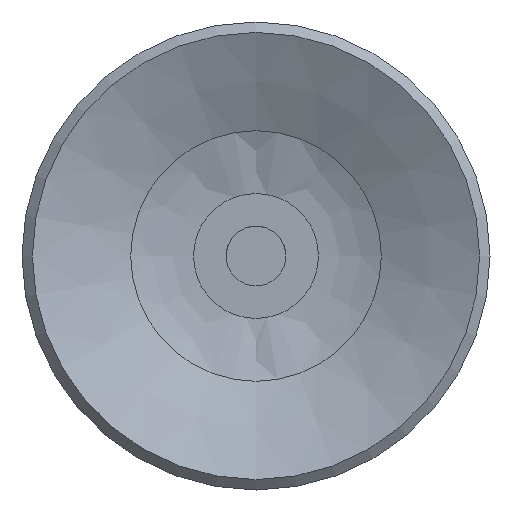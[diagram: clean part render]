
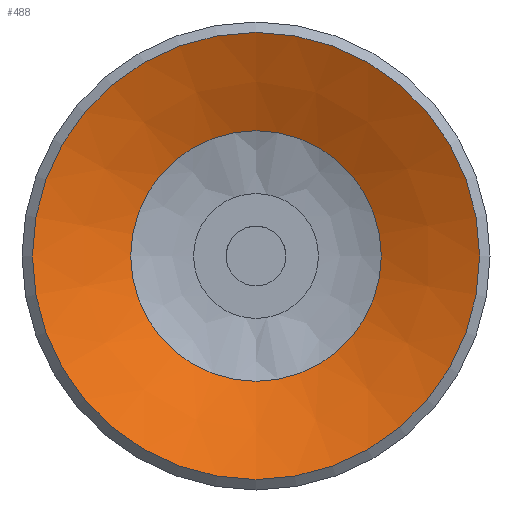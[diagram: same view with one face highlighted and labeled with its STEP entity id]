
A CAD part, front view. The second image highlights one B-rep face of the part: STEP entity #488.
In plain terms, the highlighted conical face has half-angle 65.056 degrees and reference radius 3.2 mm.
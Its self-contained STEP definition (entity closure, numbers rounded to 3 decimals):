
#488=ADVANCED_FACE('',(#728,#729),#730,.F.);
#728=FACE_BOUND('',#997,.T.);
#729=FACE_OUTER_BOUND('',#998,.T.);
#730=CONICAL_SURFACE('',#999,3.2,1.135);
#997=EDGE_LOOP('',(#1673));
#998=EDGE_LOOP('',(#1674));
#999=AXIS2_PLACEMENT_3D('',#1675,#1676,#1677);
#1673=ORIENTED_EDGE('',*,*,#1910,.T.);
#1674=ORIENTED_EDGE('',*,*,#1911,.T.);
#1675=CARTESIAN_POINT('',(0.0,7.896,0.0));
#1676=DIRECTION('',(-0.0,-1.0,0.));
#1677=DIRECTION('',(0.0,0.,-1.0));
#1910=EDGE_CURVE('',#2202,#2202,#2203,.T.);
#1911=EDGE_CURVE('',#2204,#2204,#2205,.T.);
#2202=VERTEX_POINT('',#2894);
#2203=CIRCLE('',#2895,4.203);
#2204=VERTEX_POINT('',#2896);
#2205=CIRCLE('',#2897,7.5);
#2894=CARTESIAN_POINT('',(0.0,7.43,-4.203));
#2895=AXIS2_PLACEMENT_3D('',#3171,#3172,#3173);
#2896=CARTESIAN_POINT('',(0.0,5.896,-7.5));
#2897=AXIS2_PLACEMENT_3D('',#3174,#3175,#3176);
#3171=CARTESIAN_POINT('',(0.0,7.43,0.0));
#3172=DIRECTION('',(0.0,1.0,0.));
#3173=DIRECTION('',(0.0,0.,-1.0));
#3174=CARTESIAN_POINT('',(0.0,5.896,0.0));
#3175=DIRECTION('',(0.0,-1.0,0.));
#3176=DIRECTION('',(0.0,0.,-1.0));
